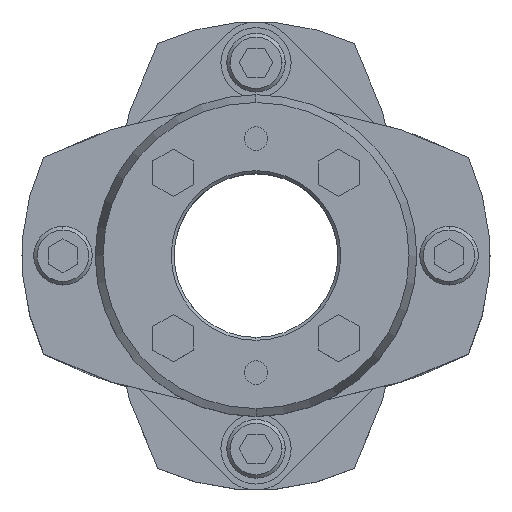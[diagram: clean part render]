
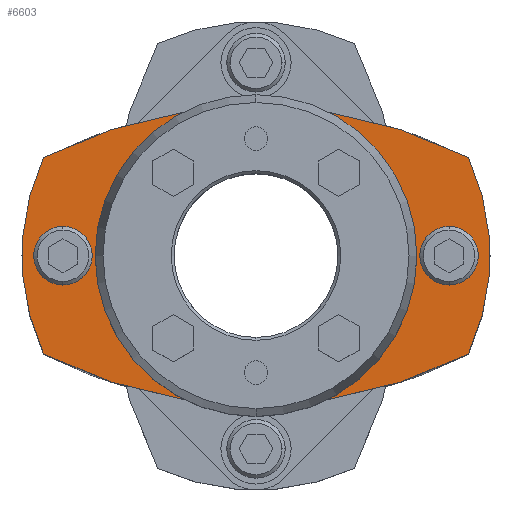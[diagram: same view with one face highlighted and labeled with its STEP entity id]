
A CAD part, top view. The second image highlights one B-rep face of the part: STEP entity #6603.
In plain terms, the highlighted planar face has unit normal (0, 0, 1).
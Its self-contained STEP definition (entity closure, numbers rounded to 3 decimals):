
#1593=CARTESIAN_POINT('',(0.,25.5,19.25));
#1594=VERTEX_POINT('',#1593);
#1610=CARTESIAN_POINT('',(-36.307,16.787,19.25));
#1611=VERTEX_POINT('',#1610);
#1618=CARTESIAN_POINT('',(0.,-54.5,19.25));
#1619=DIRECTION('',(0.0,0.0,-1.0));
#1620=DIRECTION('',(0.,1.0,0.0));
#1621=AXIS2_PLACEMENT_3D('',#1618,#1619,#1620);
#1622=CIRCLE('',#1621,80.);
#1623=EDGE_CURVE('',#1611,#1594,#1622,.T.);
#1633=CARTESIAN_POINT('',(0.,-25.5,19.25));
#1634=VERTEX_POINT('',#1633);
#1643=CARTESIAN_POINT('',(-36.307,-16.787,19.25));
#1644=VERTEX_POINT('',#1643);
#1645=CARTESIAN_POINT('',(0.,54.5,19.25));
#1646=DIRECTION('',(0.0,0.0,-1.0));
#1647=DIRECTION('',(0.,1.0,0.0));
#1648=AXIS2_PLACEMENT_3D('',#1645,#1646,#1647);
#1649=CIRCLE('',#1648,80.);
#1650=EDGE_CURVE('',#1634,#1644,#1649,.T.);
#1899=CARTESIAN_POINT('',(0.,24.,19.25));
#1900=VERTEX_POINT('',#1899);
#1950=CARTESIAN_POINT('',(0.,-24.,19.25));
#1951=VERTEX_POINT('',#1950);
#1958=CARTESIAN_POINT('',(0.,0.,19.25));
#1959=DIRECTION('',(0.0,0.0,-1.0));
#1960=DIRECTION('',(0.,1.0,0.0));
#1961=AXIS2_PLACEMENT_3D('',#1958,#1959,#1960);
#1962=CIRCLE('',#1961,24.0);
#1963=EDGE_CURVE('',#1900,#1951,#1962,.T.);
#2059=CARTESIAN_POINT('',(33.,5.,19.25));
#2060=VERTEX_POINT('',#2059);
#2076=CARTESIAN_POINT('',(33.,-5.,19.25));
#2077=VERTEX_POINT('',#2076);
#2084=CARTESIAN_POINT('',(33.,0.,19.25));
#2085=DIRECTION('',(0.0,0.0,-1.0));
#2086=DIRECTION('',(0.,1.0,0.0));
#2087=AXIS2_PLACEMENT_3D('',#2084,#2085,#2086);
#2088=CIRCLE('',#2087,5.0);
#2089=EDGE_CURVE('',#2060,#2077,#2088,.T.);
#2133=CARTESIAN_POINT('',(-33.,5.,19.25));
#2134=VERTEX_POINT('',#2133);
#2150=CARTESIAN_POINT('',(-33.,-5.,19.25));
#2151=VERTEX_POINT('',#2150);
#2158=CARTESIAN_POINT('',(-33.,0.,19.25));
#2159=DIRECTION('',(0.0,0.0,-1.0));
#2160=DIRECTION('',(0.,1.0,0.0));
#2161=AXIS2_PLACEMENT_3D('',#2158,#2159,#2160);
#2162=CIRCLE('',#2161,5.0);
#2163=EDGE_CURVE('',#2134,#2151,#2162,.T.);
#5154=CARTESIAN_POINT('',(-33.,0.,19.25));
#5155=DIRECTION('',(0.0,0.0,-1.0));
#5156=DIRECTION('',(0.,1.0,0.0));
#5157=AXIS2_PLACEMENT_3D('',#5154,#5155,#5156);
#5158=CIRCLE('',#5157,5.0);
#5159=EDGE_CURVE('',#2151,#2134,#5158,.T.);
#5214=CARTESIAN_POINT('',(33.,0.,19.25));
#5215=DIRECTION('',(0.0,0.0,-1.0));
#5216=DIRECTION('',(0.,1.0,0.0));
#5217=AXIS2_PLACEMENT_3D('',#5214,#5215,#5216);
#5218=CIRCLE('',#5217,5.0);
#5219=EDGE_CURVE('',#2077,#2060,#5218,.T.);
#6286=CARTESIAN_POINT('',(0.,0.,19.25));
#6287=DIRECTION('',(0.0,0.0,-1.0));
#6288=DIRECTION('',(0.,1.0,0.0));
#6289=AXIS2_PLACEMENT_3D('',#6286,#6287,#6288);
#6290=CIRCLE('',#6289,24.0);
#6291=EDGE_CURVE('',#1951,#1900,#6290,.T.);
#6499=CARTESIAN_POINT('',(36.307,-16.787,19.25));
#6500=VERTEX_POINT('',#6499);
#6507=CARTESIAN_POINT('',(0.,54.5,19.25));
#6508=DIRECTION('',(0.0,0.0,-1.0));
#6509=DIRECTION('',(0.,1.0,0.0));
#6510=AXIS2_PLACEMENT_3D('',#6507,#6508,#6509);
#6511=CIRCLE('',#6510,80.);
#6512=EDGE_CURVE('',#6500,#1634,#6511,.T.);
#6522=CARTESIAN_POINT('',(0.,0.,19.25));
#6523=DIRECTION('',(0.0,0.0,-1.0));
#6524=DIRECTION('',(0.,1.0,0.0));
#6525=AXIS2_PLACEMENT_3D('',#6522,#6523,#6524);
#6526=CIRCLE('',#6525,40.);
#6527=EDGE_CURVE('',#1644,#1611,#6526,.T.);
#6541=CARTESIAN_POINT('',(36.307,16.787,19.25));
#6542=VERTEX_POINT('',#6541);
#6543=CARTESIAN_POINT('',(0.,-54.5,19.25));
#6544=DIRECTION('',(0.0,0.0,-1.0));
#6545=DIRECTION('',(0.,1.0,0.0));
#6546=AXIS2_PLACEMENT_3D('',#6543,#6544,#6545);
#6547=CIRCLE('',#6546,80.);
#6548=EDGE_CURVE('',#1594,#6542,#6547,.T.);
#6565=CARTESIAN_POINT('',(0.,0.,19.25));
#6566=DIRECTION('',(0.0,0.0,-1.0));
#6567=DIRECTION('',(0.,1.0,0.0));
#6568=AXIS2_PLACEMENT_3D('',#6565,#6566,#6567);
#6569=CIRCLE('',#6568,40.);
#6570=EDGE_CURVE('',#6542,#6500,#6569,.T.);
#6578=CARTESIAN_POINT('',(0.,0.,19.25));
#6579=DIRECTION('',(0.0,0.0,1.0));
#6580=DIRECTION('',(0.,1.0,0.0));
#6581=AXIS2_PLACEMENT_3D('',#6578,#6579,#6580);
#6582=PLANE('',#6581);
#6583=ORIENTED_EDGE('',*,*,#6512,.F.);
#6584=ORIENTED_EDGE('',*,*,#6570,.F.);
#6585=ORIENTED_EDGE('',*,*,#6548,.F.);
#6586=ORIENTED_EDGE('',*,*,#1623,.F.);
#6587=ORIENTED_EDGE('',*,*,#6527,.F.);
#6588=ORIENTED_EDGE('',*,*,#1650,.F.);
#6589=EDGE_LOOP('',(#6583,#6584,#6585,#6586,#6587,#6588));
#6590=FACE_OUTER_BOUND('',#6589,.T.);
#6591=ORIENTED_EDGE('',*,*,#2163,.T.);
#6592=ORIENTED_EDGE('',*,*,#5159,.T.);
#6593=EDGE_LOOP('',(#6591,#6592));
#6594=FACE_BOUND('',#6593,.T.);
#6595=ORIENTED_EDGE('',*,*,#2089,.T.);
#6596=ORIENTED_EDGE('',*,*,#5219,.T.);
#6597=EDGE_LOOP('',(#6595,#6596));
#6598=FACE_BOUND('',#6597,.T.);
#6599=ORIENTED_EDGE('',*,*,#1963,.T.);
#6600=ORIENTED_EDGE('',*,*,#6291,.T.);
#6601=EDGE_LOOP('',(#6599,#6600));
#6602=FACE_BOUND('',#6601,.T.);
#6603=ADVANCED_FACE('',(#6590,#6594,#6598,#6602),#6582,.T.);
